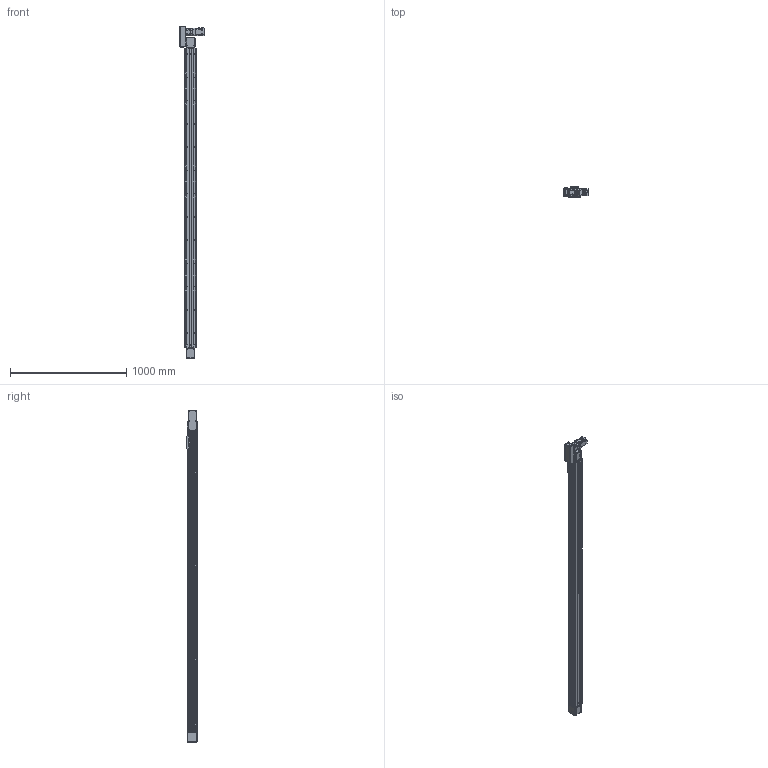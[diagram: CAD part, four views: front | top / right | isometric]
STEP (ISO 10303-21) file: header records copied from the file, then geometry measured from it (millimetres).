
FILE_DESCRIPTION(/* description */ ('MANUFACTURE'),/* implementation_level */ '2;1');
FILE_NAME(/* name */ '\\192.168.0.160\disk1\HAN SHIN Master\B-설계부문\C-표준\B-2024년\BC02-표준도면\+로봇 개선표준도면\홈페이지 표준 도면\홈페이지 최종 작업 폴더\3D\HSB\HSB75\L\HSB75-L2G-N-2400-R.stp',/* time_stamp */ '2025-04-30T13:05:56+09:00',/* author */ ('user'),/* organization */ (''),/* preprocessor_version */ 'ST-DEVELOPER v18.1',/* originating_system */ 'Autodesk Inventor 2022',/* authorisation */ 'LIP');
FILE_SCHEMA (('CONFIG_CONTROL_DESIGN'));
Products named in the file (38): HSB75-L2G-N-0500-R; HSB75 BASE; HSB75 TABLE; HSB75 FRONT HOUSING (Connecting); HSB160 SHAFT-1; C-E6304ZZ; HSB75 FRONT COVER; UPCOVER; HS75 SIDE COVER; HSB75 REAR HOUSING; HSB75 REAR PULLEY; HSB55 REAR SHAFT; HSB55 TENSION PLATE; 6002ZZ; 6002ZZ Outer ring; 6002ZZ Shield1; 6002ZZ Inner ring; 6002ZZ Ball; 6002ZZ Shield2; HS75 SENSOR DOG-1; NIPPLE CAP(신규); hsr_ftht_A-M6F_grease_nipple_joint; HG90STOPPER - 27L; M4-6(렌치볼트); HSB75 END COVER; HSB160 BEARING OVER; HSB55 ACRYL COVER; HSB75 ACRYL COVER-END; SENSOR BRK(EE-SX674A); EE_SX674A; PGX62-H-1_3; hg-kr23_; MOTOR PLATE-200W(MITSUBISHI); HR75-LR-BELT COVER(200W); HC75-LR-MOTOR PLATE(200W)-사출; HR75-BELT COVER-COVER; HR75-BELT COVER-COVER2; HR65-BELT COVER-COVER3
Assembly tree (65 placements, depth 3):
  HSB75-L2G-N-0500-R
    HSB75 BASE
    HSB75 TABLE
    HSB75 FRONT HOUSING (Connecting)
    HSB160 SHAFT-1
    HSB75 FRONT COVER  x2
    C-E6304ZZ  x2
    UPCOVER
    HS75 SIDE COVER  x2
    HSB75 REAR HOUSING
    HSB75 REAR PULLEY
    HSB55 REAR SHAFT
    HSB55 TENSION PLATE  x2
    6002ZZ  x2
      6002ZZ Outer ring
      6002ZZ Shield1
      6002ZZ Inner ring
      6002ZZ Ball
      6002ZZ Shield2
    HS75 SENSOR DOG-1
    SENSOR BRK(EE-SX674A)  x3
    EE_SX674A  x3
    NIPPLE CAP(신규)  x2
    hsr_ftht_A-M6F_grease_nipple_joint  x2
    HG90STOPPER - 27L  x2
    M4-6(렌치볼트)  x2
    HSB75 END COVER
    HSB160 BEARING OVER
    HSB55 ACRYL COVER  x3
    HSB75 ACRYL COVER-END
    PGX62-H-1_3
    hg-kr23_
    MOTOR PLATE-200W(MITSUBISHI)
    HR75-LR-BELT COVER(200W)
    HC75-LR-MOTOR PLATE(200W)-사출
    HR75-BELT COVER-COVER
    HR75-BELT COVER-COVER2
    HR65-BELT COVER-COVER3  x2
Bounding box: 206.6 x 89 x 2856 mm (x, y, z)
Volume: 7260441.3 mm3; surface area: 2828712.3 mm2
Topology: 97 solids, 97 shells, 5470 faces, 15155 edges, 9961 vertices
Faces by surface type: plane 3941, cylinder 1109, cone 314, torus 45, sphere 42, bspline 19
Full cylindrical faces by diameter (mm): 2 x12, 2.013 x4, 2.459 x64, 3 x10, 3.242 x34, 3.3 x5, 3.4 x20, 3.5 x22, 4 x3, 4.134 x65, 4.2 x10, 4.343 x2, 4.5 x30, 4.917 x32, 5 x28, 5.5 x40, 5.6 x10, 5.8 x4, 5.9 x8, 6 x6, 6.5 x4, 7 x3, 8 x9, 8.5 x4, 9 x12, 9.5 x24, 12 x2, 14 x1, 14.2 x1, 14.3 x2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
Entity records: 146635 total; most frequent: CARTESIAN_POINT 29154, ORIENTED_EDGE 24336, DIRECTION 23596, EDGE_CURVE 12168, LINE 9056, VECTOR 9056, VERTEX_POINT 8065, AXIS2_PLACEMENT_3D 7270
